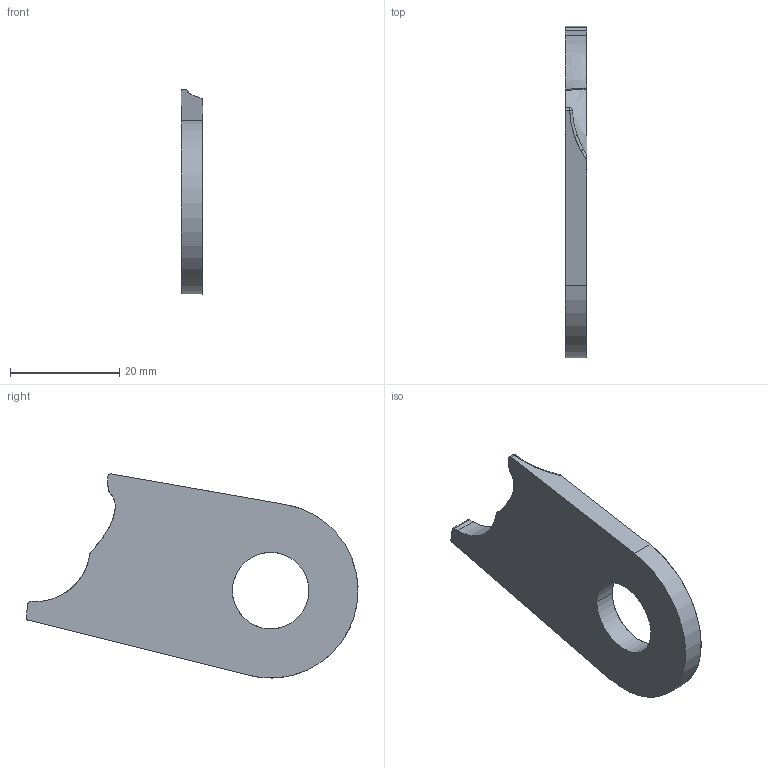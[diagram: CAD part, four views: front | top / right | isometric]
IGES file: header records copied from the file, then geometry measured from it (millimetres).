
Start section: START RECORD GO HERE.
Global section: file name: EN_06132 (Chape PE Gauche Haut 2).igs; native system: IBM CATIA IGES - CATIA Version 5 Release 19 ; preprocessor: CATIA Version 5 Release 19 ; author: Martin Kawczynski; organization: DESKTOP-UDLM1FC; date: 20200104.171224; units: millimetre
Bounding box: 4 x 60.75 x 37.36 mm (x, y, z)
Surface area: 3405.5 mm2 (no closed solid volume)
Topology: 0 solids, 0 shells, 21 faces, 106 edges, 106 vertices
Faces by surface type: revolution 11, plane 6, bspline 4
